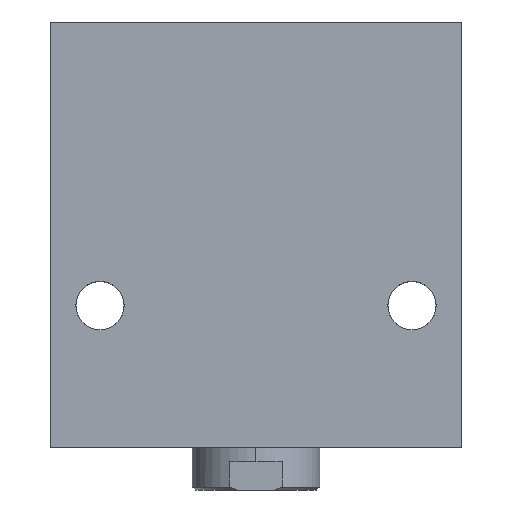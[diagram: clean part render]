
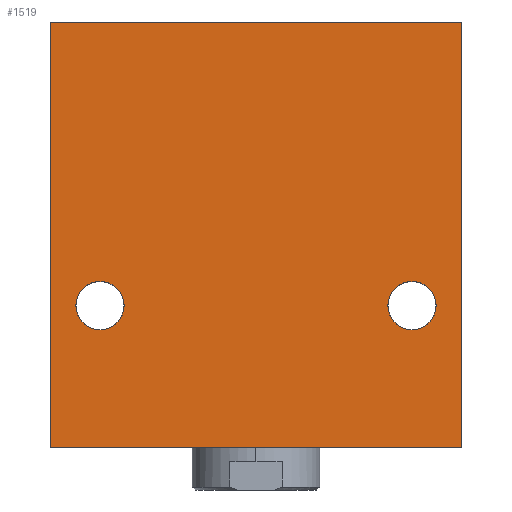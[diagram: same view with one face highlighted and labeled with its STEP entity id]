
A CAD part, front view. The second image highlights one B-rep face of the part: STEP entity #1519.
In plain terms, the highlighted planar face has unit normal (0, -1, 0).
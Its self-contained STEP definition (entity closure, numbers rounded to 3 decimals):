
#835 = EDGE_CURVE ( 'NONE', #8623, #13941, #9588, .T. ) ;
#884 = VERTEX_POINT ( 'NONE', #15526 ) ;
#1241 = CARTESIAN_POINT ( 'NONE',  ( -55., 0., -58.5 ) ) ;
#1401 = EDGE_CURVE ( 'NONE', #11254, #9459, #12341, .T. ) ;
#1519 = ADVANCED_FACE ( 'NONE', ( #4212, #14174, #8213 ), #13538, .F. ) ;
#1807 = LINE ( 'NONE', #13461, #11348 ) ;
#1839 = EDGE_CURVE ( 'NONE', #7683, #884, #1807, .T. ) ;
#1934 = DIRECTION ( 'NONE',  ( 0., 0., -1. ) ) ;
#2042 = ORIENTED_EDGE ( 'NONE', *, *, #8565, .T. ) ;
#2287 = CARTESIAN_POINT ( 'NONE',  ( 0., 0., 0. ) ) ;
#2464 = AXIS2_PLACEMENT_3D ( 'NONE', #4765, #13485, #5976 ) ;
#2531 = CARTESIAN_POINT ( 'NONE',  ( 55., 0., -58.5 ) ) ;
#3010 = DIRECTION ( 'NONE',  ( 0., 1., 0. ) ) ;
#3011 = ORIENTED_EDGE ( 'NONE', *, *, #8306, .T. ) ;
#3045 = CARTESIAN_POINT ( 'NONE',  ( -55., 0., -50. ) ) ;
#3190 = AXIS2_PLACEMENT_3D ( 'NONE', #2287, #6023, #14790 ) ;
#3858 = AXIS2_PLACEMENT_3D ( 'NONE', #13690, #6164, #14932 ) ;
#4170 = EDGE_LOOP ( 'NONE', ( #3011, #2042 ) ) ;
#4212 = FACE_BOUND ( 'NONE', #4531, .T. ) ;
#4232 = ORIENTED_EDGE ( 'NONE', *, *, #1839, .F. ) ;
#4304 = DIRECTION ( 'NONE',  ( 0., 0., 1. ) ) ;
#4531 = EDGE_LOOP ( 'NONE', ( #10637, #15889 ) ) ;
#4741 = DIRECTION ( 'NONE',  ( 0., 0., 1. ) ) ;
#4765 = CARTESIAN_POINT ( 'NONE',  ( -55., 0., -50. ) ) ;
#4818 = ORIENTED_EDGE ( 'NONE', *, *, #1401, .F. ) ;
#4843 = CARTESIAN_POINT ( 'NONE',  ( 55., 0., -41.5 ) ) ;
#5607 = VECTOR ( 'NONE', #13933, 1000. ) ;
#5781 = ORIENTED_EDGE ( 'NONE', *, *, #10006, .F. ) ;
#5911 = CARTESIAN_POINT ( 'NONE',  ( -72.5, 0., -100. ) ) ;
#5976 = DIRECTION ( 'NONE',  ( 0., 0., 1. ) ) ;
#6023 = DIRECTION ( 'NONE',  ( 0., 1., 0. ) ) ;
#6164 = DIRECTION ( 'NONE',  ( 0., 1., 0. ) ) ;
#6232 = VECTOR ( 'NONE', #7136, 1000. ) ;
#6233 = EDGE_CURVE ( 'NONE', #9459, #7683, #13299, .T. ) ;
#6392 = CARTESIAN_POINT ( 'NONE',  ( -72.5, 0., 50. ) ) ;
#6467 = EDGE_LOOP ( 'NONE', ( #4232, #7928, #4818, #5781 ) ) ;
#6532 = CARTESIAN_POINT ( 'NONE',  ( 72.5, 0., 50. ) ) ;
#6618 = CARTESIAN_POINT ( 'NONE',  ( 72.5, 0., -100. ) ) ;
#7136 = DIRECTION ( 'NONE',  ( -1., 0., 0. ) ) ;
#7683 = VERTEX_POINT ( 'NONE', #13399 ) ;
#7928 = ORIENTED_EDGE ( 'NONE', *, *, #6233, .F. ) ;
#8087 = EDGE_CURVE ( 'NONE', #13941, #8623, #13878, .T. ) ;
#8213 = FACE_OUTER_BOUND ( 'NONE', #6467, .T. ) ;
#8306 = EDGE_CURVE ( 'NONE', #14890, #8649, #12241, .T. ) ;
#8565 = EDGE_CURVE ( 'NONE', #8649, #14890, #14073, .T. ) ;
#8602 = VECTOR ( 'NONE', #1934, 1000. ) ;
#8623 = VERTEX_POINT ( 'NONE', #1241 ) ;
#8649 = VERTEX_POINT ( 'NONE', #2531 ) ;
#9459 = VERTEX_POINT ( 'NONE', #6618 ) ;
#9588 = CIRCLE ( 'NONE', #15507, 8.5 ) ;
#10006 = EDGE_CURVE ( 'NONE', #884, #11254, #15586, .T. ) ;
#10399 = CARTESIAN_POINT ( 'NONE',  ( 55., 0., -50. ) ) ;
#10637 = ORIENTED_EDGE ( 'NONE', *, *, #8087, .T. ) ;
#10778 = AXIS2_PLACEMENT_3D ( 'NONE', #10399, #3010, #11674 ) ;
#11254 = VERTEX_POINT ( 'NONE', #6532 ) ;
#11348 = VECTOR ( 'NONE', #4741, 1000. ) ;
#11674 = DIRECTION ( 'NONE',  ( 0., 0., 1. ) ) ;
#11702 = DIRECTION ( 'NONE',  ( 0., 1., 0. ) ) ;
#12241 = CIRCLE ( 'NONE', #10778, 8.5 ) ;
#12341 = LINE ( 'NONE', #15617, #8602 ) ;
#13299 = LINE ( 'NONE', #5911, #6232 ) ;
#13399 = CARTESIAN_POINT ( 'NONE',  ( -72.5, 0., -100. ) ) ;
#13461 = CARTESIAN_POINT ( 'NONE',  ( -72.5, 0., -100. ) ) ;
#13485 = DIRECTION ( 'NONE',  ( 0., 1., 0. ) ) ;
#13538 = PLANE ( 'NONE',  #3190 ) ;
#13690 = CARTESIAN_POINT ( 'NONE',  ( 55., 0., -50. ) ) ;
#13878 = CIRCLE ( 'NONE', #2464, 8.5 ) ;
#13933 = DIRECTION ( 'NONE',  ( 1., 0., 0. ) ) ;
#13941 = VERTEX_POINT ( 'NONE', #15491 ) ;
#14073 = CIRCLE ( 'NONE', #3858, 8.5 ) ;
#14174 = FACE_BOUND ( 'NONE', #4170, .T. ) ;
#14790 = DIRECTION ( 'NONE',  ( 0., 0., 1. ) ) ;
#14890 = VERTEX_POINT ( 'NONE', #4843 ) ;
#14932 = DIRECTION ( 'NONE',  ( 0., 0., 1. ) ) ;
#15491 = CARTESIAN_POINT ( 'NONE',  ( -55., 0., -41.5 ) ) ;
#15507 = AXIS2_PLACEMENT_3D ( 'NONE', #3045, #11702, #4304 ) ;
#15526 = CARTESIAN_POINT ( 'NONE',  ( -72.5, 0., 50. ) ) ;
#15586 = LINE ( 'NONE', #6392, #5607 ) ;
#15617 = CARTESIAN_POINT ( 'NONE',  ( 72.5, 0., -100. ) ) ;
#15889 = ORIENTED_EDGE ( 'NONE', *, *, #835, .T. ) ;
